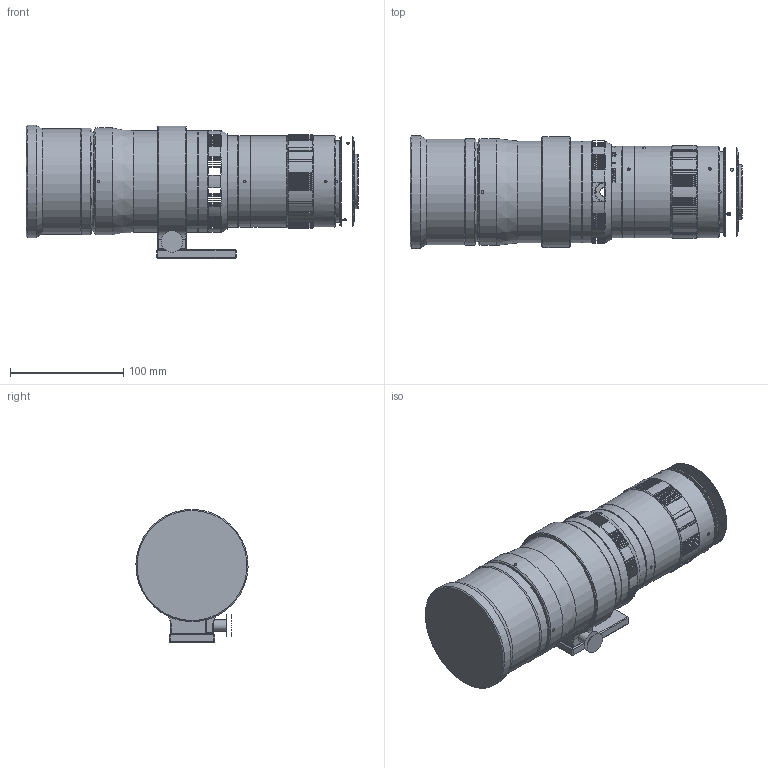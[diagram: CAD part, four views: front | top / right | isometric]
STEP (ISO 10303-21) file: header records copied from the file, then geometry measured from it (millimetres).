
FILE_DESCRIPTION((''),'2;1');
FILE_NAME('C:\Documents and Settings\tbosotti\Desktop\C0245_002.stp','2014-04-28T11:37:34',('tbosotti'),(''),'Autodesk Inventor 2010','Autodesk Inventor 2010','');
FILE_SCHEMA(('AUTOMOTIVE_DESIGN { 1 0 10303 214 1 1 1 1 }'));
Length unit declared in the file: millimetre
Products named in the file (2): C0245_002_000.iam (Livello di dettaglio sostituto1); C0245_002
Assembly tree (1 placements, depth 2):
  C0245_002_000.iam (Livello di dettaglio sostituto1)
    C0245_002
Bounding box: 292.9 x 98.93 x 117.46 mm (x, y, z)
Surface area: 195974.9 mm2 (no closed solid volume)
Topology: 0 solids, 41 shells, 422 faces, 4017 edges, 3455 vertices
Faces by surface type: plane 170, cylinder 136, cone 92, bspline 23, sphere 1
Full cylindrical faces by diameter (mm): 2.459 x1, 4.978 x1, 7.798 x1, 10 x1, 48 x1, 64.5 x1, 69.5 x1, 71.5 x1, 72.5 x1, 80.5 x2, 81 x1, 88 x2, 89.8 x2, 93 x1, 94.4 x2, 99 x1
Entity records: 50899 total; most frequent: CARTESIAN_POINT 27485, ORIENTED_EDGE 4594, DIRECTION 4071, EDGE_CURVE 3924, VERTEX_POINT 3428, AXIS2_PLACEMENT_3D 1675, CIRCLE 1263, VECTOR 721
